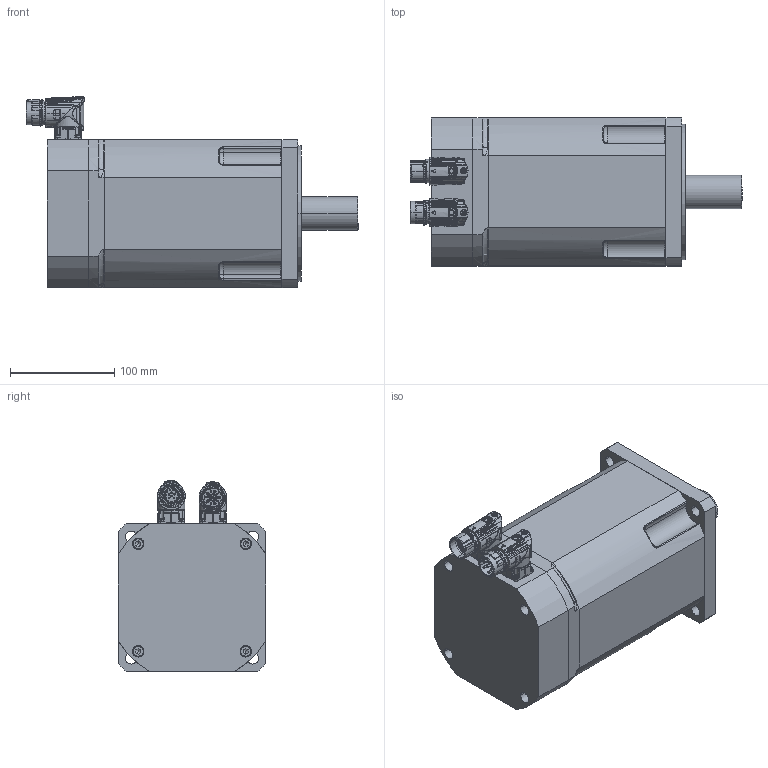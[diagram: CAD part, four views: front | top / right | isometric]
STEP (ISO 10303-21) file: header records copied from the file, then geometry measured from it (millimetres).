
FILE_DESCRIPTION(('CATIA V5 STEP Exchange'),'2;1');
FILE_NAME('C:\Documents and Settings\max\Documenti\sangallimotori\3d step\tg5\motore_DSM5_51_Freno.stp','2010-12-12T18:45:21+00:00',('none'),('none'),'CATIA Version 5 Release 10 (IN-8)','CATIA V5 STEP AP203',' none');
FILE_SCHEMA(('CONFIG_CONTROL_DESIGN'));
Assembly tree (27 placements, depth 0):
Bounding box: 318.81 x 142 x 183.43 mm (x, y, z)
Volume: 4427675 mm3; surface area: 318087.3 mm2
Topology: 23 solids, 28 shells, 4112 faces, 13934 edges, 9842 vertices
Faces by surface type: cylinder 1486, bspline 1334, plane 590, torus 360, cone 233, sphere 109
Entity records: 255963 total; most frequent: CARTESIAN_POINT 165446, ORIENTED_EDGE 25592, EDGE_CURVE 12853, VERTEX_POINT 9238, DIRECTION 8836, B_SPLINE_CURVE_WITH_KNOTS 7940, AXIS2_PLACEMENT_3D 4425, EDGE_LOOP 3856
